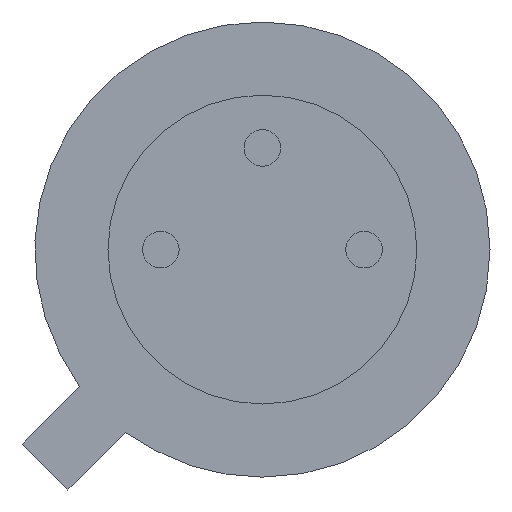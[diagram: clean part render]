
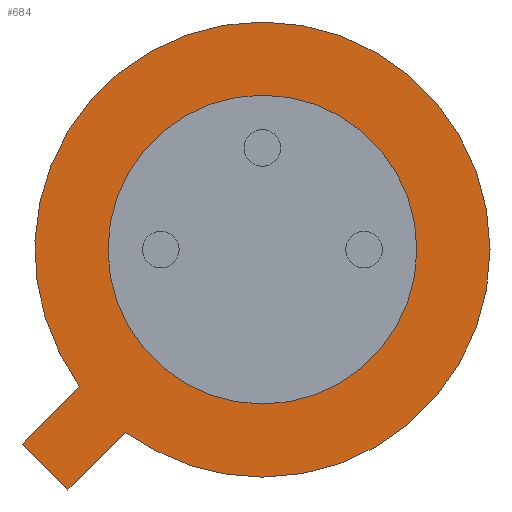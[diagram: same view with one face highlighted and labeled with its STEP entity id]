
A CAD part, front view. The second image highlights one B-rep face of the part: STEP entity #684.
In plain terms, the highlighted planar face has unit normal (0, -1, 0).
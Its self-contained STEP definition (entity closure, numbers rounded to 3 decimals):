
#477 = CARTESIAN_POINT ( 'NONE',  ( 0., 0.5, -1.9 ) ) ;
#478 = VERTEX_POINT ( 'NONE', #477 ) ;
#485 = CARTESIAN_POINT ( 'NONE',  ( 0., 0.5, 1.9 ) ) ;
#486 = VERTEX_POINT ( 'NONE', #485 ) ;
#487 = CARTESIAN_POINT ( 'NONE',  ( 0., 0.5, 0. ) ) ;
#488 = DIRECTION ( 'NONE',  ( 0., -1., 0. ) ) ;
#489 = DIRECTION ( 'NONE',  ( 0., 0., 1. ) ) ;
#490 = AXIS2_PLACEMENT_3D ( 'NONE', #487, #488, #489 ) ;
#491 = CIRCLE ( 'NONE', #490, 1.9) ;
#492 = EDGE_CURVE ( 'NONE', #478, #486, #491, .T. ) ;
#519 = CARTESIAN_POINT ( 'NONE',  ( 0., 0.5, 2.8 ) ) ;
#520 = VERTEX_POINT ( 'NONE', #519 ) ;
#527 = CARTESIAN_POINT ( 'NONE',  ( 0., 0.5, -2.8 ) ) ;
#528 = VERTEX_POINT ( 'NONE', #527 ) ;
#529 = CARTESIAN_POINT ( 'NONE',  ( 0., 0.5, 0. ) ) ;
#530 = DIRECTION ( 'NONE',  ( 0., 1., 0. ) ) ;
#531 = DIRECTION ( 'NONE',  ( 0., 0., 1. ) ) ;
#532 = AXIS2_PLACEMENT_3D ( 'NONE', #529, #530, #531 ) ;
#533 = CIRCLE ( 'NONE', #532, 2.8) ;
#534 = EDGE_CURVE ( 'NONE', #520, #528, #533, .T. ) ;
#560 = CARTESIAN_POINT ( 'NONE',  ( -1.685, 0.5, -2.251 ) ) ;
#561 = VERTEX_POINT ( 'NONE', #560 ) ;
#562 = CARTESIAN_POINT ( 'NONE',  ( 0., 0.5, 0. ) ) ;
#563 = DIRECTION ( 'NONE',  ( 0., 1., 0. ) ) ;
#564 = DIRECTION ( 'NONE',  ( 0., 0., 1. ) ) ;
#565 = AXIS2_PLACEMENT_3D ( 'NONE', #562, #563, #564 ) ;
#566 = CIRCLE ( 'NONE', #565, 2.8) ;
#567 = EDGE_CURVE ( 'NONE', #528, #561, #566, .T. ) ;
#634 = CARTESIAN_POINT ( 'NONE',  ( -2.251, 0.5, -1.685 ) ) ;
#635 = VERTEX_POINT ( 'NONE', #634 ) ;
#636 = CARTESIAN_POINT ( 'NONE',  ( 0., 0.5, 0. ) ) ;
#637 = DIRECTION ( 'NONE',  ( 0., 1., 0. ) ) ;
#638 = DIRECTION ( 'NONE',  ( 0., 0., 1. ) ) ;
#639 = AXIS2_PLACEMENT_3D ( 'NONE', #636, #637, #638 ) ;
#640 = CIRCLE ( 'NONE', #639, 2.8) ;
#641 = EDGE_CURVE ( 'NONE', #635, #520, #640, .T. ) ;
#642 = ORIENTED_EDGE ( 'NONE', *, *, #641, .F. ) ;
#643 = CARTESIAN_POINT ( 'NONE',  ( -2.958, 0.5, -2.392 ) ) ;
#644 = VERTEX_POINT ( 'NONE', #643 ) ;
#645 = CARTESIAN_POINT ( 'NONE',  ( -2.251, 0.5, -1.685 ) ) ;
#646 = DIRECTION ( 'NONE',  ( 0.707, 0., 0.707 ) ) ;
#647 = VECTOR ( 'NONE', #646, 1000. ) ;
#648 = LINE ( 'NONE', #645, #647 ) ;
#649 = EDGE_CURVE ( 'NONE', #644, #635, #648, .T. ) ;
#650 = ORIENTED_EDGE ( 'NONE', *, *, #649, .F. ) ;
#651 = CARTESIAN_POINT ( 'NONE',  ( -2.392, 0.5, -2.958 ) ) ;
#652 = VERTEX_POINT ( 'NONE', #651 ) ;
#653 = CARTESIAN_POINT ( 'NONE',  ( -2.958, 0.5, -2.392 ) ) ;
#654 = DIRECTION ( 'NONE',  ( -0.707, 0., 0.707 ) ) ;
#655 = VECTOR ( 'NONE', #654, 1000. ) ;
#656 = LINE ( 'NONE', #653, #655 ) ;
#657 = EDGE_CURVE ( 'NONE', #652, #644, #656, .T. ) ;
#658 = ORIENTED_EDGE ( 'NONE', *, *, #657, .F. ) ;
#659 = CARTESIAN_POINT ( 'NONE',  ( -1.685, 0.5, -2.251 ) ) ;
#660 = DIRECTION ( 'NONE',  ( -0.707, 0., -0.707 ) ) ;
#661 = VECTOR ( 'NONE', #660, 1000. ) ;
#662 = LINE ( 'NONE', #659, #661 ) ;
#663 = EDGE_CURVE ( 'NONE', #561, #652, #662, .T. ) ;
#664 = ORIENTED_EDGE ( 'NONE', *, *, #663, .F. ) ;
#665 = ORIENTED_EDGE ( 'NONE', *, *, #567, .F. ) ;
#666 = ORIENTED_EDGE ( 'NONE', *, *, #534, .F. ) ;
#667 = EDGE_LOOP ( 'NONE', ( #642, #650, #658, #664, #665, #666 ) ) ;
#668 = FACE_OUTER_BOUND ( 'NONE', #667, .T. ) ;
#669 = CARTESIAN_POINT ( 'NONE',  ( 0., 0.5, 0. ) ) ;
#670 = DIRECTION ( 'NONE',  ( 0., -1., 0. ) ) ;
#671 = DIRECTION ( 'NONE',  ( 0., 0., 1. ) ) ;
#672 = AXIS2_PLACEMENT_3D ( 'NONE', #669, #670, #671 ) ;
#673 = CIRCLE ( 'NONE', #672, 1.9) ;
#674 = EDGE_CURVE ( 'NONE', #486, #478, #673, .T. ) ;
#675 = ORIENTED_EDGE ( 'NONE', *, *, #674, .F. ) ;
#676 = ORIENTED_EDGE ( 'NONE', *, *, #492, .F. ) ;
#677 = EDGE_LOOP ( 'NONE', ( #675, #676 ) ) ;
#678 = FACE_BOUND ( 'NONE', #677, .T. ) ;
#679 = CARTESIAN_POINT ( 'NONE',  ( 0., 0.5, 0. ) ) ;
#680 = DIRECTION ( 'NONE',  ( 0., 1., 0. ) ) ;
#681 = DIRECTION ( 'NONE',  ( 0., 0., 1. ) ) ;
#682 = AXIS2_PLACEMENT_3D ( 'NONE', #679, #680, #681 ) ;
#683 = PLANE ( 'NONE', #682 ) ;
#684 = ADVANCED_FACE ( 'NONE', ( #668, #678 ), #683, .F. ) ;
